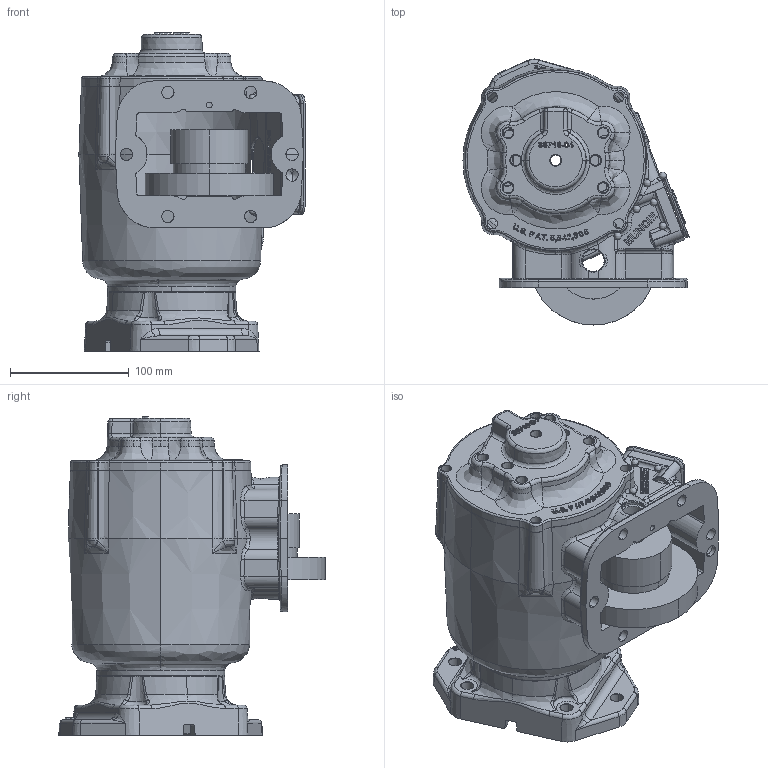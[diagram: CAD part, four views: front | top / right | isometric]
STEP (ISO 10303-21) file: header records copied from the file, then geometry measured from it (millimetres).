
FILE_DESCRIPTION (( 'STEP AP203' ), '1' );
FILE_NAME ('CS6S-XXXXX-X2KX.STEP', '2011-11-01T20:17:07', ( 'User' ), ( 'Muncie Power Products, Inc.' ), 'SwSTEP 2.0', 'SolidWorks 2011', '' );
FILE_SCHEMA (( 'CONFIG_CONTROL_DESIGN' ));
Products named in the file (1): CS6S-XXXXX-X2KX
Bounding box: 190.82 x 224.74 x 268.87 mm (x, y, z)
Surface area: 346912.2 mm2 (no closed solid volume)
Topology: 0 solids, 20 shells, 1499 faces, 5100 edges, 3420 vertices
Faces by surface type: bspline 714, cylinder 294, plane 290, cone 197, torus 4
Entity records: 120711 total; most frequent: CARTESIAN_POINT 84613, ORIENTED_EDGE 8433, EDGE_CURVE 5020, DIRECTION 4736, VERTEX_POINT 3420, B_SPLINE_CURVE_WITH_KNOTS 2453, LINE 1720, VECTOR 1720
